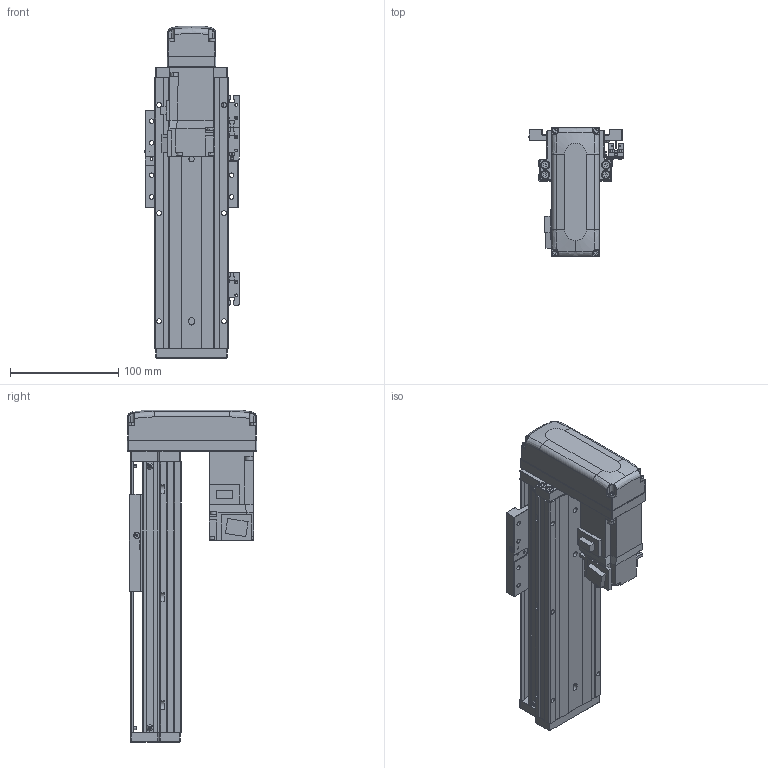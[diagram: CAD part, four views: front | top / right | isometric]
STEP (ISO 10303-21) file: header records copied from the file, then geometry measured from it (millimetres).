
FILE_DESCRIPTION (( 'STEP AP203' ), '1' );
FILE_NAME ('KTHAL60-100-BM-M10-C4L.step', '2022-03-19T08:40:13', ( '微软用户' ), ( '微软中国' ), 'SwSTEP 2.0', 'SolidWorks 2020', '' );
FILE_SCHEMA (( 'CONFIG_CONTROL_DESIGN' ));
Length unit declared in the file: millimetre
Products named in the file (18): HG-KR13（三菱）; KTHA60-001_250; CTHA60-017; CTHA60-015-2_CTHA60-015-2; KTHLA60-002; CTHA60-021; CTHA60-033; KTHA60-004; GBT 70.1-M4×16; GBT 70.1-M3×15; KTHA60-005; GBT77-2000M3-3; KTHAL60-100-BM-M10-C4L; GB¨uT 70.2-M3¡Á5_M3¡Á6; GBT 70.1-M3℅6; GBT 70.3-M3℅6; CTHA60-016; EE_SX911P_R
Assembly tree (51 placements, depth 2):
  KTHAL60-100-BM-M10-C4L
    KTHA60-001_250
    KTHLA60-002
    KTHA60-004
    KTHA60-005
    GB¨uT 70.2-M3¡Á5_M3¡Á6  x5
    GBT 70.3-M3℅6  x4
    EE_SX911P_R  x3
    CTHA60-017  x3
    CTHA60-021  x2
    GBT 70.1-M4×16  x10
    GBT77-2000M3-3  x6
    GBT 70.1-M3℅6  x6
    CTHA60-016
    HG-KR13（三菱）
    CTHA60-015-2_CTHA60-015-2
    CTHA60-033
    GBT 70.1-M3×15  x4
Bounding box: 87.82 x 120 x 307 mm (x, y, z)
Volume: 879574.9 mm3; surface area: 215761.5 mm2
Topology: 54 solids, 54 shells, 2215 faces, 5219 edges, 3197 vertices
Faces by surface type: plane 1264, cylinder 535, cone 278, torus 98, bspline 26, sphere 14
Entity records: 37409 total; most frequent: CARTESIAN_POINT 7112, DIRECTION 5803, ORIENTED_EDGE 5582, EDGE_CURVE 2791, AXIS2_PLACEMENT_3D 1955, LINE 1893, VECTOR 1893, VERTEX_POINT 1746
